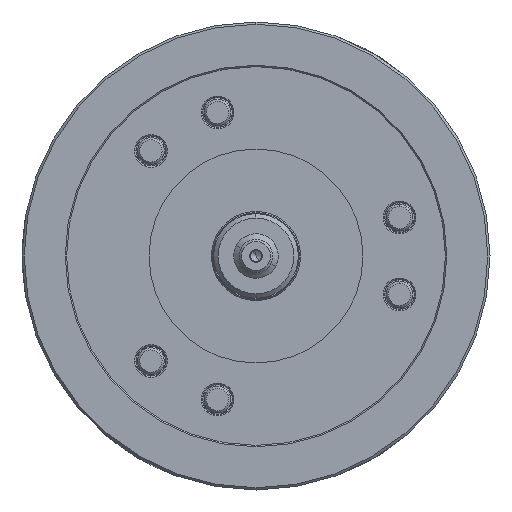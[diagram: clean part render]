
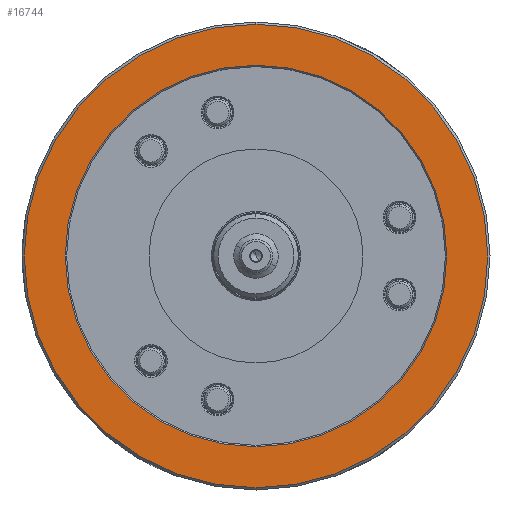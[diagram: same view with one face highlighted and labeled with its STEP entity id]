
A CAD part, left-side view. The second image highlights one B-rep face of the part: STEP entity #16744.
In plain terms, the highlighted planar face has unit normal (-1, 0, 0).
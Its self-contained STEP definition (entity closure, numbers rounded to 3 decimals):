
#1011 = AXIS2_PLACEMENT_3D ( 'NONE', #34611, #12597, #38319 ) ;
#1844 = ORIENTED_EDGE ( 'NONE', *, *, #45953, .T. ) ;
#2151 = DIRECTION ( 'NONE',  ( 1., 0., 0. ) ) ;
#2669 = CARTESIAN_POINT ( 'NONE',  ( -94., 0., 0. ) ) ;
#3494 = DIRECTION ( 'NONE',  ( 1., 0., 0. ) ) ;
#4431 = CIRCLE ( 'NONE', #31402, 85.6 ) ;
#6348 = DIRECTION ( 'NONE',  ( 0., 0., -1. ) ) ;
#6831 = ORIENTED_EDGE ( 'NONE', *, *, #15000, .T. ) ;
#10774 = PLANE ( 'NONE',  #13587 ) ;
#10860 = VERTEX_POINT ( 'NONE', #42252 ) ;
#12597 = DIRECTION ( 'NONE',  ( 1., 0., 0. ) ) ;
#13389 = FACE_BOUND ( 'NONE', #45491, .T. ) ;
#13587 = AXIS2_PLACEMENT_3D ( 'NONE', #47420, #36476, #14460 ) ;
#14460 = DIRECTION ( 'NONE',  ( 0., 0., -1. ) ) ;
#15000 = EDGE_CURVE ( 'NONE', #10860, #27940, #4431, .T. ) ;
#16630 = AXIS2_PLACEMENT_3D ( 'NONE', #2669, #28335, #6348 ) ;
#16744 = ADVANCED_FACE ( 'NONE', ( #23114, #13389 ), #10774, .F. ) ;
#20616 = CIRCLE ( 'NONE', #1011, 85.6 ) ;
#23114 = FACE_OUTER_BOUND ( 'NONE', #41122, .T. ) ;
#24098 = CARTESIAN_POINT ( 'NONE',  ( -94., 0., 0. ) ) ;
#25465 = CARTESIAN_POINT ( 'NONE',  ( -94., 0., 0. ) ) ;
#27296 = AXIS2_PLACEMENT_3D ( 'NONE', #25465, #3494, #29175 ) ;
#27769 = EDGE_CURVE ( 'NONE', #30887, #29280, #47531, .T. ) ;
#27835 = DIRECTION ( 'NONE',  ( 0., 0., -1. ) ) ;
#27940 = VERTEX_POINT ( 'NONE', #40912 ) ;
#28335 = DIRECTION ( 'NONE',  ( 1., 0., 0. ) ) ;
#29175 = DIRECTION ( 'NONE',  ( 0., 0., -1. ) ) ;
#29280 = VERTEX_POINT ( 'NONE', #43156 ) ;
#30887 = VERTEX_POINT ( 'NONE', #42420 ) ;
#31402 = AXIS2_PLACEMENT_3D ( 'NONE', #24098, #2151, #27835 ) ;
#32272 = ORIENTED_EDGE ( 'NONE', *, *, #27769, .F. ) ;
#34611 = CARTESIAN_POINT ( 'NONE',  ( -94., 0., 0. ) ) ;
#35210 = CIRCLE ( 'NONE', #16630, 104. ) ;
#36476 = DIRECTION ( 'NONE',  ( 1., 0., 0. ) ) ;
#38319 = DIRECTION ( 'NONE',  ( 0., 0., -1. ) ) ;
#40912 = CARTESIAN_POINT ( 'NONE',  ( -94., 0., 85.6 ) ) ;
#41122 = EDGE_LOOP ( 'NONE', ( #44947, #32272 ) ) ;
#42252 = CARTESIAN_POINT ( 'NONE',  ( -94., 0., -85.6 ) ) ;
#42420 = CARTESIAN_POINT ( 'NONE',  ( -94., 0., 104. ) ) ;
#42530 = EDGE_CURVE ( 'NONE', #29280, #30887, #35210, .T. ) ;
#43156 = CARTESIAN_POINT ( 'NONE',  ( -94., 0., -104. ) ) ;
#44947 = ORIENTED_EDGE ( 'NONE', *, *, #42530, .F. ) ;
#45491 = EDGE_LOOP ( 'NONE', ( #1844, #6831 ) ) ;
#45953 = EDGE_CURVE ( 'NONE', #27940, #10860, #20616, .T. ) ;
#47420 = CARTESIAN_POINT ( 'NONE',  ( -94., 0., 0. ) ) ;
#47531 = CIRCLE ( 'NONE', #27296, 104. ) ;
